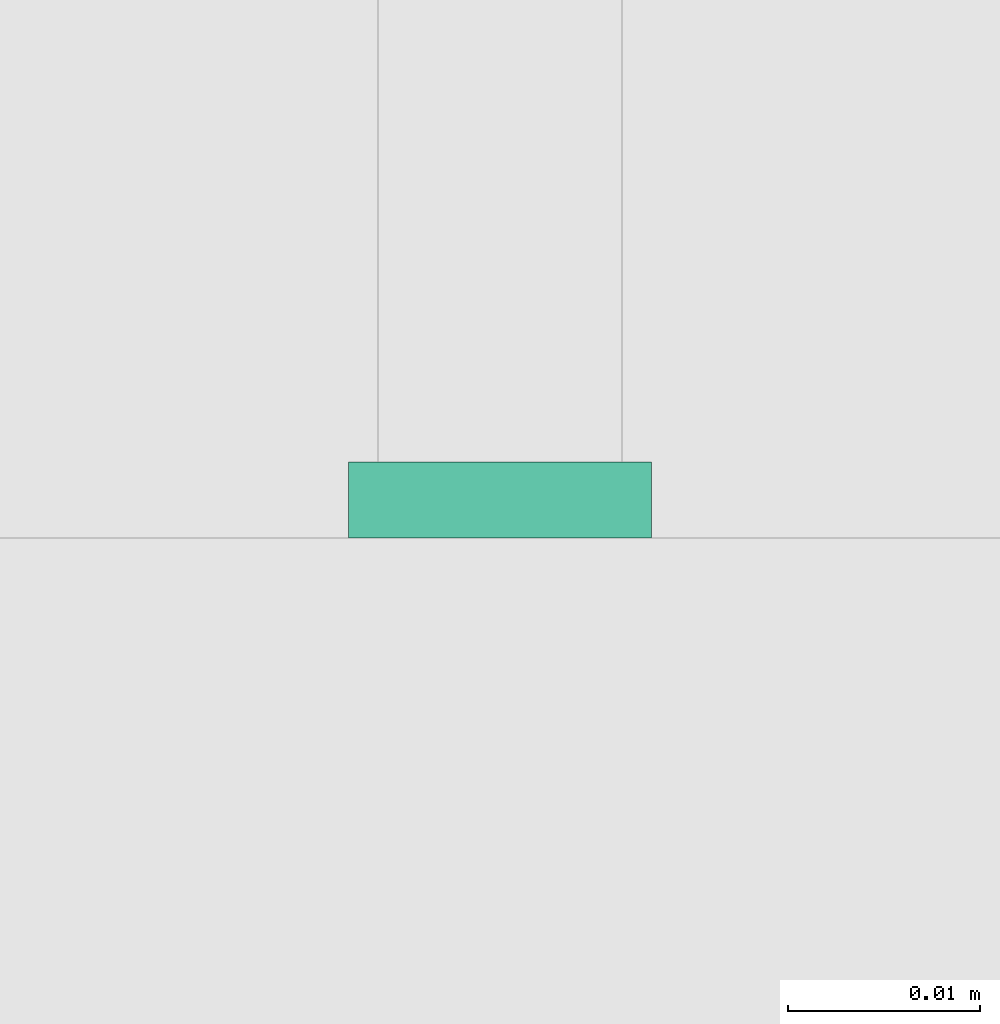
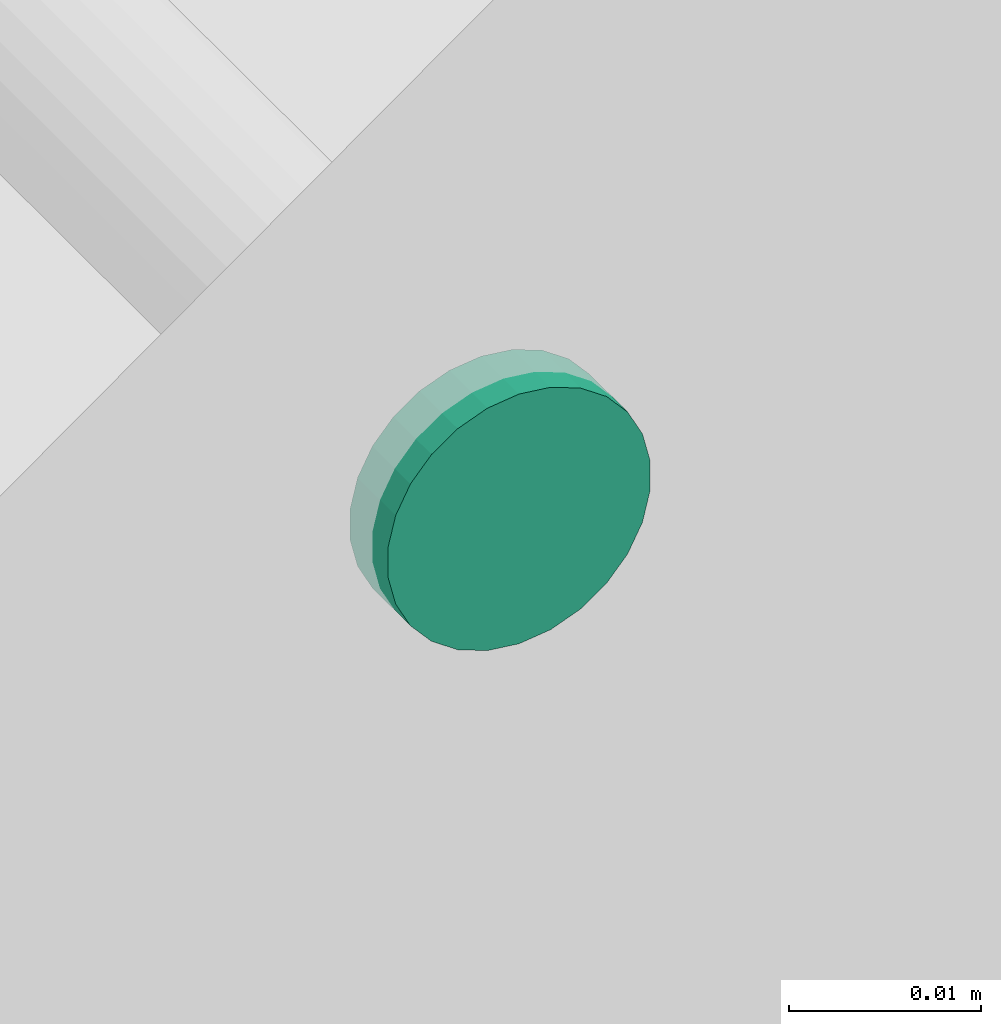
# One storey, part 19 of 22: 1 flow fitting.
"""IFC2X3 building model written with IfcOpenShell, lengths in millimetres."""

from ifc_helpers import new_model, entity, si_unit, converted_unit, derived_unit, direction, frame, origin, origin_2d_with_axis, place, context, subcontext, project, spatial, circle, extrude, source, transform, mapped, material, type_object, type_shapes, element, save


model = new_model("IFC2X3")

# Units and contexts
model_context = context("Model", 3, precision=0.01, world=origin(), true_north=direction((6.123031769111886e-17, 1.0)))
body_context = subcontext(model_context, "Body", "Model", "MODEL_VIEW")
ifc_project = project(units=[si_unit("LENGTHUNIT", "METRE", prefix="MILLI"), si_unit("AREAUNIT", "SQUARE_METRE"), si_unit("VOLUMEUNIT", "CUBIC_METRE"), converted_unit("PLANEANGLEUNIT", "DEGREE", entity("IfcRatioMeasure", 0.017453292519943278), si_unit("PLANEANGLEUNIT", "RADIAN"), dimensions=[0, 0, 0, 0, 0, 0, 0]), si_unit("MASSUNIT", "GRAM", prefix="KILO"), derived_unit("MASSDENSITYUNIT", [(si_unit("MASSUNIT", "GRAM", prefix="KILO"), 1), (si_unit("LENGTHUNIT", "METRE"), -3)]), derived_unit("MOMENTOFINERTIAUNIT", [(si_unit("LENGTHUNIT", "METRE"), 4)]), si_unit("TIMEUNIT", "SECOND"), si_unit("FREQUENCYUNIT", "HERTZ"), si_unit("THERMODYNAMICTEMPERATUREUNIT", "DEGREE_CELSIUS"), derived_unit("THERMALTRANSMITTANCEUNIT", [(si_unit("MASSUNIT", "GRAM", prefix="KILO"), 1), (si_unit("THERMODYNAMICTEMPERATUREUNIT", "KELVIN"), -1), (si_unit("TIMEUNIT", "SECOND"), -3)]), derived_unit("VOLUMETRICFLOWRATEUNIT", [(si_unit("LENGTHUNIT", "METRE"), 3), (si_unit("TIMEUNIT", "SECOND"), -1)]), derived_unit("MASSFLOWRATEUNIT", [(si_unit("MASSUNIT", "GRAM", prefix="KILO"), 1), (si_unit("TIMEUNIT", "SECOND"), -1)]), derived_unit("ROTATIONALFREQUENCYUNIT", [(si_unit("TIMEUNIT", "SECOND"), -1)]), si_unit("ELECTRICCURRENTUNIT", "AMPERE"), si_unit("ELECTRICVOLTAGEUNIT", "VOLT"), si_unit("POWERUNIT", "WATT"), si_unit("FORCEUNIT", "NEWTON", prefix="KILO"), si_unit("ILLUMINANCEUNIT", "LUX"), si_unit("LUMINOUSFLUXUNIT", "LUMEN"), si_unit("LUMINOUSINTENSITYUNIT", "CANDELA"), derived_unit("USERDEFINED", [(si_unit("MASSUNIT", "GRAM", prefix="KILO"), -1), (si_unit("LENGTHUNIT", "METRE"), -2), (si_unit("TIMEUNIT", "SECOND"), 3), (si_unit("LUMINOUSFLUXUNIT", "LUMEN"), 1)]), derived_unit("SOUNDPOWERUNIT", [(si_unit("MASSUNIT", "GRAM", prefix="KILO"), 1), (si_unit("LENGTHUNIT", "METRE"), 2), (si_unit("TIMEUNIT", "SECOND"), -3)]), derived_unit("SOUNDPRESSUREUNIT", [(si_unit("MASSUNIT", "GRAM", prefix="KILO"), 1), (si_unit("LENGTHUNIT", "METRE"), -1), (si_unit("TIMEUNIT", "SECOND"), -2)]), derived_unit("LINEARVELOCITYUNIT", [(si_unit("LENGTHUNIT", "METRE"), 1), (si_unit("TIMEUNIT", "SECOND"), -1)]), si_unit("PRESSUREUNIT", "PASCAL"), derived_unit("USERDEFINED", [(si_unit("LENGTHUNIT", "METRE"), -2), (si_unit("MASSUNIT", "GRAM", prefix="KILO"), 1), (si_unit("TIMEUNIT", "SECOND"), -2)]), derived_unit("LINEARFORCEUNIT", [(si_unit("MASSUNIT", "GRAM", prefix="KILO"), 1), (si_unit("LENGTHUNIT", "METRE"), 1), (si_unit("TIMEUNIT", "SECOND"), -2), (si_unit("LENGTHUNIT", "METRE"), -1)]), derived_unit("PLANARFORCEUNIT", [(si_unit("MASSUNIT", "GRAM", prefix="KILO"), 1), (si_unit("LENGTHUNIT", "METRE"), 1), (si_unit("TIMEUNIT", "SECOND"), -2), (si_unit("LENGTHUNIT", "METRE"), -2)])], contexts=[model_context])

# Site, building, storey
site_placement = place(None, origin())
site = spatial("IfcSite", under=ifc_project, at=site_placement, Name="Default", CompositionType="ELEMENT")
building_placement = place(site_placement, origin())
building = spatial("IfcBuilding", under=site, at=building_placement, CompositionType="ELEMENT")
storey_placement = place(building_placement, frame((0.0, 0.0, 3300.0)))
storey = spatial("IfcBuildingStorey", under=building, at=storey_placement, Name="Level 2", CompositionType="ELEMENT", Elevation=3299.99999999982)

# Flow fitting
ifc_material = material(Name="<Unnamed>")
pipe_fitting_type = type_object("IfcPipeFittingType", Name="M_Transition - Generic:Standard:Standard : M_Transition - Generic:Standard", PredefinedType="NOTDEFINED", material=ifc_material)
shared_shape = source(origin(), body_context, "Body", "SweptSolid", [
    extrude(circle(Radius=7.937500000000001, at=origin_2d_with_axis()), frame((2619.94684842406, 3691.306698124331, 6010.0), z_axis=(0.0, 1.0, 0.0), x_axis=(0.0, 0.0, 1.0)), (0.0, 0.0, 1.0), 3.9687500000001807),
])
type_shapes(pipe_fitting_type, [shared_shape])
flow_fitting_placement = place(storey_placement, frame((0.0, 0.0, -3300.0)))
element("IfcFlowFitting", 1, at=flow_fitting_placement, inside=storey, type_object=pipe_fitting_type, material=ifc_material, Name="M_Transition - Generic:Standard:Standard : M_Transition - Generic:Standard:Standard:Standard : M_Transition - Generic:Standard : M_Transition - Generic:Standard:Standard : M_Transition - Generic:Standard", ObjectType="M_Transition - Generic:Standard:Standard : M_Transition - Generic:Standard:Standard:Standard : M_Transition - Generic:Standard : M_Transition - Generic:Standard:Standard : M_Transition - Generic:Standard", context=body_context, shape_type="MappedRepresentation", body=[
    mapped(shared_shape, transform((0.0, 0.0, 0.0), scale=1.0)),
])

save(model, "model.ifc")
